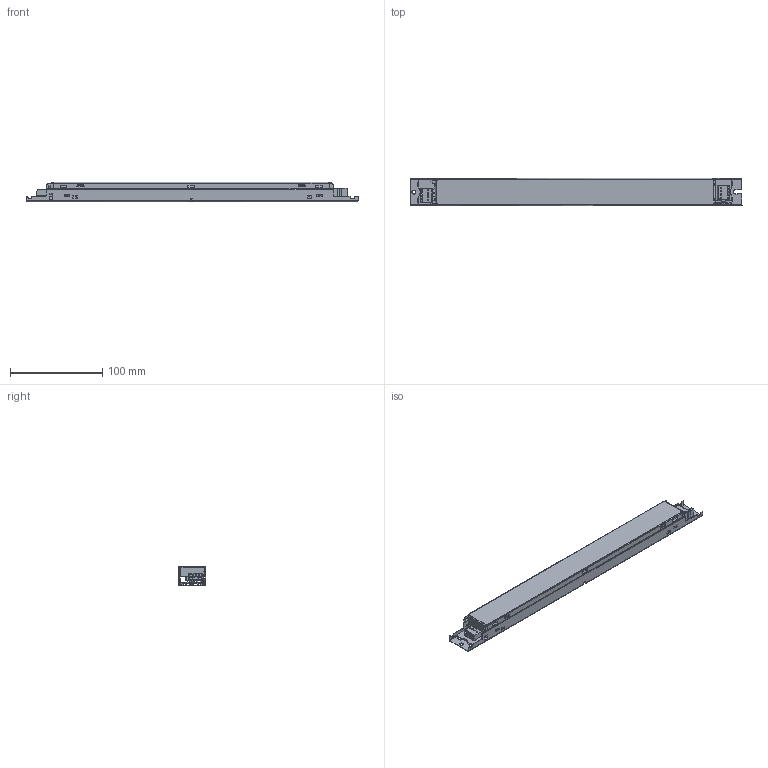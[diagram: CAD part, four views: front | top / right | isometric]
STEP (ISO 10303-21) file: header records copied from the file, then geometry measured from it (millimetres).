
FILE_DESCRIPTION(/* description */ ('','CAx-IF Rec.Pracs.---Representation and Presentation of Product Manufacturing Information (PMI)---3.8---2014-02-18'),/* implementation_level */ '2;1');
FILE_NAME(/* name */ 'C:\Users\310079203\Desktop\work\project\2019\P0027573_Low profile UL driver for backlit panel_Fabio\3D\21mm\360x30x21\Driver L360x30x21 with simple set.stp',/* time_stamp */ '2019-08-01T10:07:26+08:00',/* author */ ('310079203'),/* organization */ (''),/* preprocessor_version */ 'ST-DEVELOPER v16.5',/* originating_system */ 'Autodesk Inventor 2017',/* authorisation */ '');
FILE_SCHEMA (('AP242_MANAGED_MODEL_BASED_3D_ENGINEERING_MIM_LF { 1 0 10303 442 1 1 4 }'));
Products named in the file (1): Driver L360x30x21
Bounding box: 360.04 x 29.86 x 20.8 mm (x, y, z)
Volume: 33362.5 mm3; surface area: 94401.1 mm2
Topology: 1 solids, 1 shells, 1496 faces, 4108 edges, 2596 vertices
Faces by surface type: plane 852, cylinder 445, bspline 100, torus 40, sphere 30, cone 29
Full cylindrical faces by diameter (mm): 0.966 x6, 1.1 x7, 3 x7
Entity records: 51499 total; most frequent: CARTESIAN_POINT 11897, ORIENTED_EDGE 8040, DIRECTION 7766, EDGE_CURVE 4020, LINE 2818, VECTOR 2818, VERTEX_POINT 2577, AXIS2_PLACEMENT_3D 2474
